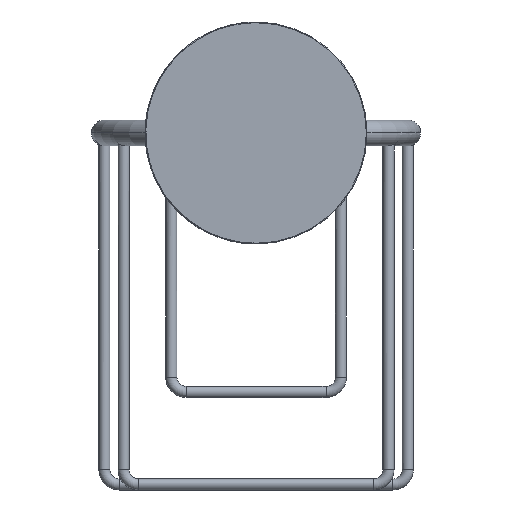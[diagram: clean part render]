
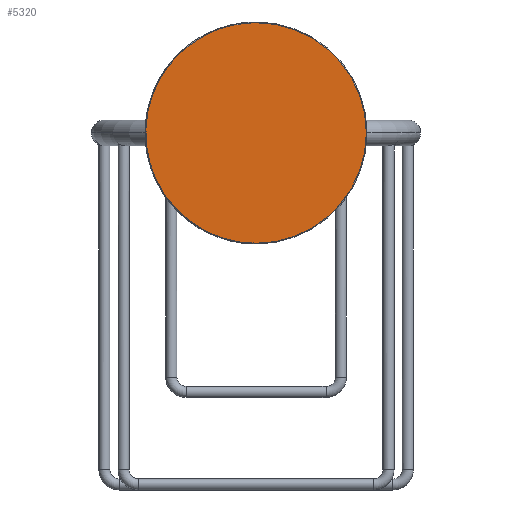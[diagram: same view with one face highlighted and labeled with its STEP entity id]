
A CAD part, front view. The second image highlights one B-rep face of the part: STEP entity #5320.
In plain terms, the highlighted planar face has unit normal (0, -1, 0).
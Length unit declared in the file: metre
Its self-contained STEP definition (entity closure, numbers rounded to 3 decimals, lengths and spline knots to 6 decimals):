
#20=EDGE_CURVE('',#21,#23,#25,.F.);
#21=VERTEX_POINT('',#22);
#22=CARTESIAN_POINT('',(0.0,-0.014,-0.0298));
#23=VERTEX_POINT('',#24);
#24=CARTESIAN_POINT('',(0.0,-0.014,0.0298));
#25=CIRCLE('',#26,0.0298);
#26=AXIS2_PLACEMENT_3D('',#27,#28,#29);
#27=CARTESIAN_POINT('',(0.0,-0.014,0.0));
#28=DIRECTION('',(0.0,1.0,0.0));
#29=DIRECTION('',(0.0,0.0,1.0));
#5320=ADVANCED_FACE('',(#5326),#5321,.F.);
#5321=PLANE('',#5322);
#5322=AXIS2_PLACEMENT_3D('',#5323,#5324,#5325);
#5323=CARTESIAN_POINT('',(0.0,-0.014,0.03));
#5324=DIRECTION('',(0.0,1.0,0.0));
#5325=DIRECTION('',(0.0,0.0,1.0));
#5326=FACE_OUTER_BOUND('',#5327,.T.);
#5327=EDGE_LOOP('',(#5328,#5336));
#5328=ORIENTED_EDGE('',*,*,#5330,.T.);
#5329=CARTESIAN_POINT('',(0.0,-0.014,-0.0298));
#5330=EDGE_CURVE('',#23,#21,#5331,.F.);
#5331=(B_SPLINE_CURVE(3,(#5329,#5332,#5333,#5334),.UNSPECIFIED.,.F.,.U.)B_SPLINE_CURVE_WITH_KNOTS(
  (4,4),(0.0,1.0),.UNSPECIFIED.)BOUNDED_CURVE()CURVE()GEOMETRIC_REPRESENTATION_ITEM(
  )RATIONAL_B_SPLINE_CURVE((1.0,0.333,0.333,1.0)
  )REPRESENTATION_ITEM(''));
#5332=CARTESIAN_POINT('',(-0.0596,-0.014,-0.0298));
#5333=CARTESIAN_POINT('',(-0.0596,-0.014,0.0298));
#5334=CARTESIAN_POINT('',(0.0,-0.014,0.0298));
#5336=ORIENTED_EDGE('',*,*,#20,.T.);
